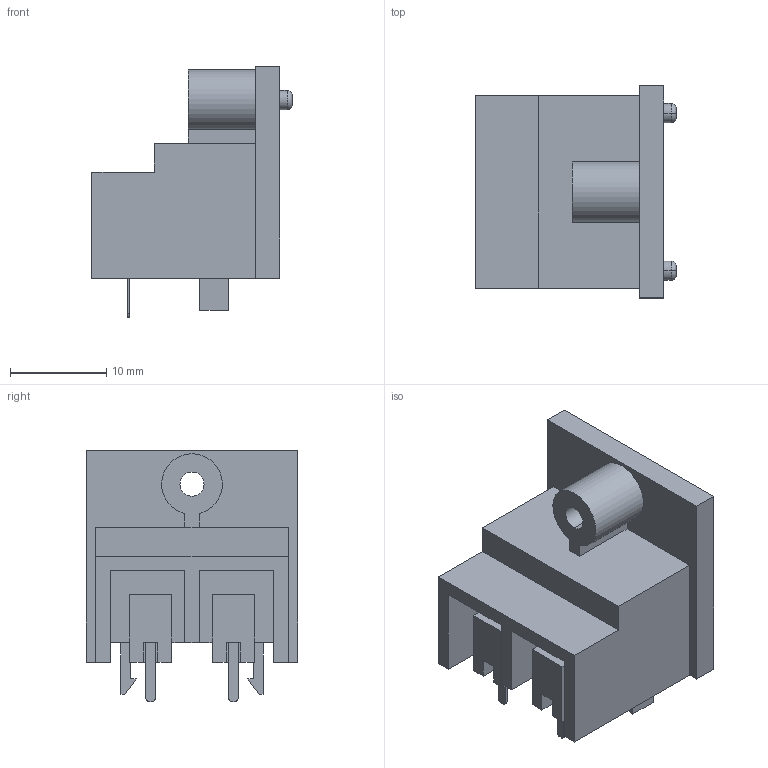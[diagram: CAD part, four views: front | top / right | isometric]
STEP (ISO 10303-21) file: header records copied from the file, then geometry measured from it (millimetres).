
FILE_DESCRIPTION (( 'STEP AP214' ), '1' );
FILE_NAME ('jungt_KR-203.STEP', '2013-07-24T17:52:13', ( 'tom' ), ( '' ), 'SwSTEP 2.0', 'SolidWorks 2013', '' );
FILE_SCHEMA (( 'AUTOMOTIVE_DESIGN' ));
Length unit declared in the file: millimetre
Products named in the file (1): jungt_KR-203
Bounding box: 20.8 x 22 x 26.1 mm (x, y, z)
Volume: 3705.2 mm3; surface area: 3807 mm2
Topology: 1 solids, 1 shells, 120 faces, 325 edges, 214 vertices
Faces by surface type: plane 92, cylinder 20, torus 8
Entity records: 4047 total; most frequent: CARTESIAN_POINT 660, ORIENTED_EDGE 650, DIRECTION 627, EDGE_CURVE 325, VECTOR 265, LINE 265, VERTEX_POINT 214, AXIS2_PLACEMENT_3D 181
